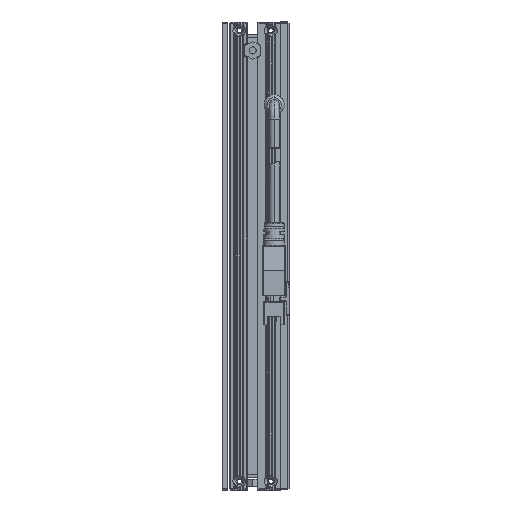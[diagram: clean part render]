
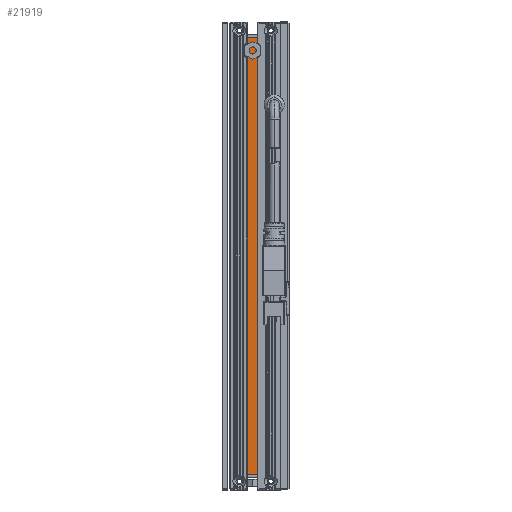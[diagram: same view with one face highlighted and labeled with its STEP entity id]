
A CAD part, left-side view. The second image highlights one B-rep face of the part: STEP entity #21919.
In plain terms, the highlighted planar face has unit normal (1, 0, 0).
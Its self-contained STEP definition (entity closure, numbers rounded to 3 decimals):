
#316 = CARTESIAN_POINT ( 'NONE',  ( 125.07, 58.548, 32. ) ) ;
#1020 = AXIS2_PLACEMENT_3D ( 'NONE', #316, #34169, #28244 ) ;
#3389 = DIRECTION ( 'NONE',  ( 0., 1., 0. ) ) ;
#4552 = EDGE_LOOP ( 'NONE', ( #21904, #26502, #29475, #14952 ) ) ;
#5312 = LINE ( 'NONE', #5727, #26581 ) ;
#5551 = CARTESIAN_POINT ( 'NONE',  ( 125.07, 62.148, -126.5 ) ) ;
#5727 = CARTESIAN_POINT ( 'NONE',  ( 125.07, 58.548, 26.5 ) ) ;
#7391 = LINE ( 'NONE', #15713, #36362 ) ;
#10577 = FACE_OUTER_BOUND ( 'NONE', #4552, .T. ) ;
#12600 = PLANE ( 'NONE',  #1020 ) ;
#13267 = DIRECTION ( 'NONE',  ( 0., 1., 0. ) ) ;
#13548 = CARTESIAN_POINT ( 'NONE',  ( 125.07, 62.148, 32. ) ) ;
#14952 = ORIENTED_EDGE ( 'NONE', *, *, #29516, .F. ) ;
#15478 = VERTEX_POINT ( 'NONE', #39712 ) ;
#15713 = CARTESIAN_POINT ( 'NONE',  ( 125.07, 58.548, 32. ) ) ;
#16249 = CARTESIAN_POINT ( 'NONE',  ( 125.07, 58.548, -126.5 ) ) ;
#17608 = EDGE_CURVE ( 'NONE', #37972, #26876, #27936, .T. ) ;
#20503 = CARTESIAN_POINT ( 'NONE',  ( 125.07, 62.148, 26.5 ) ) ;
#21433 = EDGE_CURVE ( 'NONE', #15478, #22839, #5312, .T. ) ;
#21904 = ORIENTED_EDGE ( 'NONE', *, *, #21433, .F. ) ;
#21919 = ADVANCED_FACE ( 'NONE', ( #10577 ), #12600, .F. ) ;
#22839 = VERTEX_POINT ( 'NONE', #20503 ) ;
#23061 = VECTOR ( 'NONE', #31435, 1000. ) ;
#25569 = VECTOR ( 'NONE', #13267, 1000. ) ;
#26502 = ORIENTED_EDGE ( 'NONE', *, *, #30820, .T. ) ;
#26581 = VECTOR ( 'NONE', #3389, 1000. ) ;
#26876 = VERTEX_POINT ( 'NONE', #5551 ) ;
#27936 = LINE ( 'NONE', #31974, #25569 ) ;
#28244 = DIRECTION ( 'NONE',  ( 0., 0., 1. ) ) ;
#29475 = ORIENTED_EDGE ( 'NONE', *, *, #17608, .T. ) ;
#29516 = EDGE_CURVE ( 'NONE', #22839, #26876, #37044, .T. ) ;
#30820 = EDGE_CURVE ( 'NONE', #15478, #37972, #7391, .T. ) ;
#31435 = DIRECTION ( 'NONE',  ( 0., 0., -1. ) ) ;
#31974 = CARTESIAN_POINT ( 'NONE',  ( 125.07, 58.548, -126.5 ) ) ;
#33640 = DIRECTION ( 'NONE',  ( 0., 0., -1. ) ) ;
#34169 = DIRECTION ( 'NONE',  ( -1., 0., 0. ) ) ;
#36362 = VECTOR ( 'NONE', #33640, 1000. ) ;
#37044 = LINE ( 'NONE', #13548, #23061 ) ;
#37972 = VERTEX_POINT ( 'NONE', #16249 ) ;
#39712 = CARTESIAN_POINT ( 'NONE',  ( 125.07, 58.548, 26.5 ) ) ;
